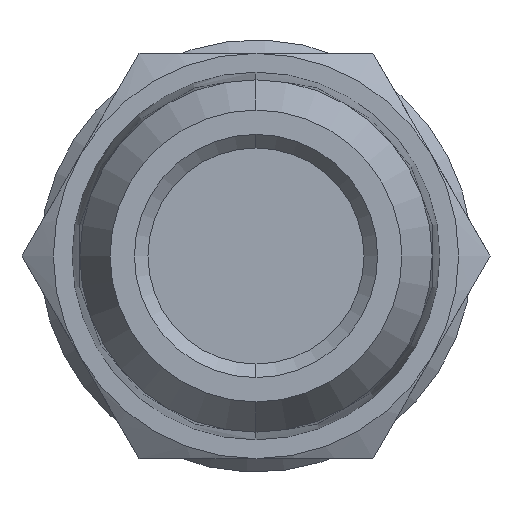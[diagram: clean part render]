
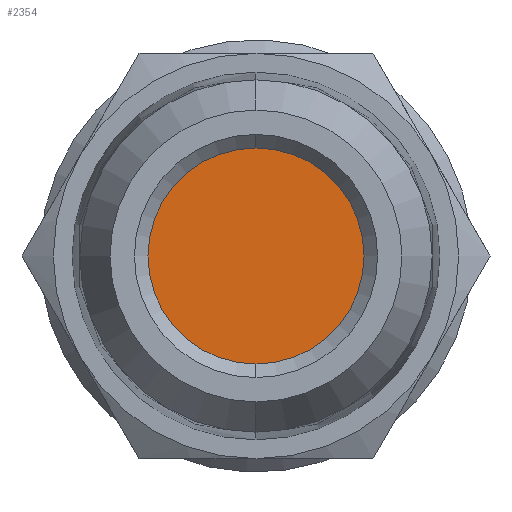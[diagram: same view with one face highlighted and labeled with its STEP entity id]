
A CAD part, front view. The second image highlights one B-rep face of the part: STEP entity #2354.
In plain terms, the highlighted planar face has unit normal (0, -1, 0).
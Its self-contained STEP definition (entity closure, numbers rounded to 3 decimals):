
#211 = FACE_OUTER_BOUND ( 'NONE', #2470, .T. ) ;
#351 = ORIENTED_EDGE ( 'NONE', *, *, #2728, .T. ) ;
#352 = ORIENTED_EDGE ( 'NONE', *, *, #2725, .T. ) ;
#685 = CARTESIAN_POINT ( 'NONE',  ( 0., -14.5, 4. ) ) ;
#691 = CARTESIAN_POINT ( 'NONE',  ( 0., -14.5, -4. ) ) ;
#1503 = CIRCLE ( 'NONE', #2100, 4. ) ;
#1508 = CIRCLE ( 'NONE', #2101, 4. ) ;
#1748 = VERTEX_POINT ( 'NONE', #685 ) ;
#1754 = VERTEX_POINT ( 'NONE', #691 ) ;
#2071 = AXIS2_PLACEMENT_3D ( 'NONE', #3254, #3258, #3259 ) ;
#2100 = AXIS2_PLACEMENT_3D ( 'NONE', #3360, #3361, #3362 ) ;
#2101 = AXIS2_PLACEMENT_3D ( 'NONE', #3367, #3368, #3369 ) ;
#2354 = ADVANCED_FACE ( 'NONE', ( #211 ), #3241, .F. ) ;
#2470 = EDGE_LOOP ( 'NONE', ( #351, #352 ) ) ;
#2725 = EDGE_CURVE ( 'NONE', #1748, #1754, #1503, .T. ) ;
#2728 = EDGE_CURVE ( 'NONE', #1754, #1748, #1508, .T. ) ;
#3241 = PLANE ( 'NONE',  #2071 ) ;
#3254 = CARTESIAN_POINT ( 'NONE',  ( 0., -14.5, 0. ) ) ;
#3258 = DIRECTION ( 'NONE',  ( 0., 1., 0. ) ) ;
#3259 = DIRECTION ( 'NONE',  ( 0., 0., 1. ) ) ;
#3360 = CARTESIAN_POINT ( 'NONE',  ( 0., -14.5, 0. ) ) ;
#3361 = DIRECTION ( 'NONE',  ( 0., -1., 0. ) ) ;
#3362 = DIRECTION ( 'NONE',  ( 0., 0., 1. ) ) ;
#3367 = CARTESIAN_POINT ( 'NONE',  ( 0., -14.5, 0. ) ) ;
#3368 = DIRECTION ( 'NONE',  ( 0., -1., 0. ) ) ;
#3369 = DIRECTION ( 'NONE',  ( 0., 0., 1. ) ) ;
